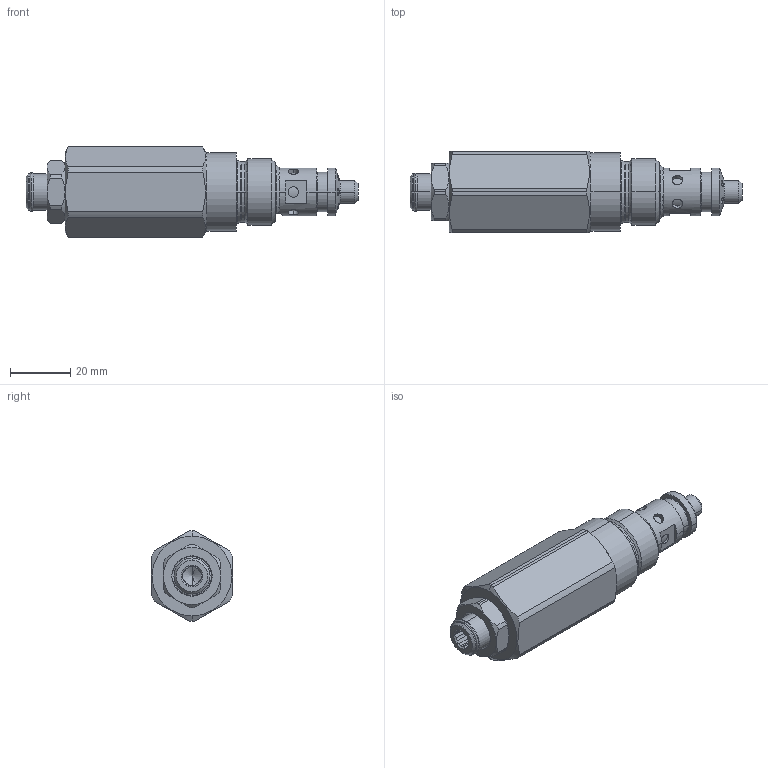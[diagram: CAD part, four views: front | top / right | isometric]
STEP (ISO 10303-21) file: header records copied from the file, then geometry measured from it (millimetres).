
FILE_DESCRIPTION (( 'STEP AP214' ), '1' );
FILE_NAME ('BESPU10-420.STEP', '2015-07-22T08:23:33', ( '' ), ( '' ), 'SwSTEP 2.0', 'SolidWorks 2014', '' );
FILE_SCHEMA (( 'AUTOMOTIVE_DESIGN' ));
Length unit declared in the file: millimetre
Products named in the file (2): BESPU10-420
Bounding box: 110.5 x 27 x 30 mm (x, y, z)
Volume: 45718.4 mm3; surface area: 9684.2 mm2
Topology: 2 solids, 3 shells, 204 faces, 468 edges, 284 vertices
Faces by surface type: cylinder 74, plane 56, cone 43, torus 31
Entity records: 8772 total; most frequent: CARTESIAN_POINT 2078, DIRECTION 988, ORIENTED_EDGE 928, EDGE_CURVE 464, AXIS2_PLACEMENT_3D 416, VERTEX_POINT 284, EDGE_LOOP 222, CIRCLE 210
